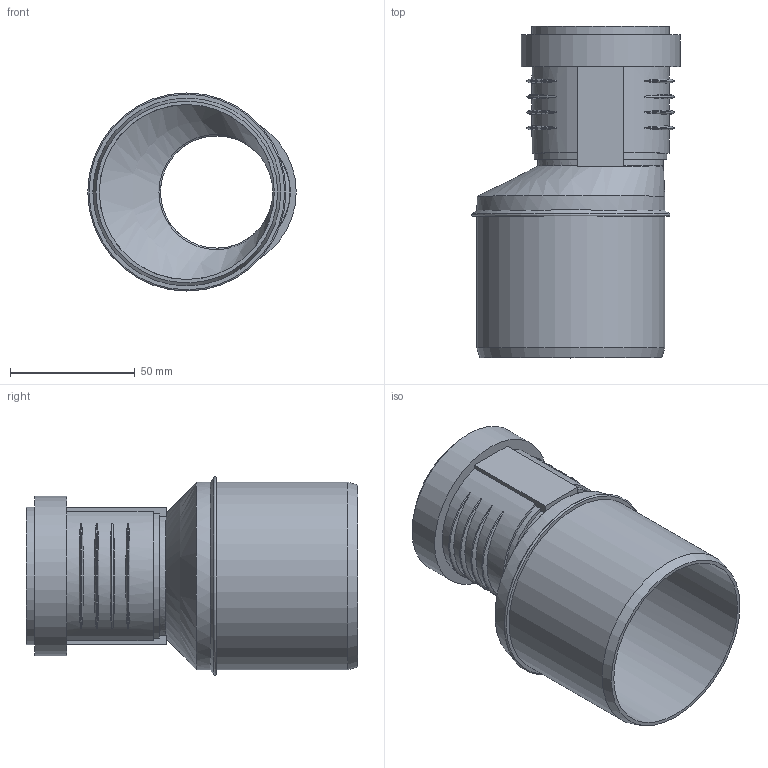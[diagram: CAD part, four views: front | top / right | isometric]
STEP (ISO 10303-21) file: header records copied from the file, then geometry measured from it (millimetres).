
FILE_DESCRIPTION(/* description */ (''),/* implementation_level */ '2;1');
FILE_NAME(/* name */ 'Z:\Geberit\Export\NewStep\390372.stp',/* time_stamp */ '2014-04-02T08:12:05+02:00',/* author */ ('ML'),/* organization */ (''),/* preprocessor_version */ 'ST-DEVELOPER v15.2',/* originating_system */ 'Autodesk Inventor 2014',/* authorisation */ '');
FILE_SCHEMA (('AUTOMOTIVE_DESIGN { 1 0 10303 214 3 1 1 }'));
Length unit declared in the file: millimetre
Products named in the file (3): 861303; 861401; 390372
Bounding box: 83.42 x 132.75 x 79.29 mm (x, y, z)
Volume: 70166.5 mm3; surface area: 63389.7 mm2
Topology: 2 solids, 2 shells, 68 faces, 162 edges, 112 vertices
Faces by surface type: torus 25, plane 20, cylinder 18, cone 3, bspline 2
Full cylindrical faces by diameter (mm): 44.95 x1, 46.15 x1, 50.15 x2, 51 x2, 55 x1, 59.7 x1, 63.7 x1, 70 x1, 75.2 x2
Entity records: 2630 total; most frequent: CARTESIAN_POINT 1021, DIRECTION 296, ORIENTED_EDGE 290, EDGE_CURVE 145, AXIS2_PLACEMENT_3D 130, VERTEX_POINT 111, EDGE_LOOP 102, STYLED_ITEM 68
